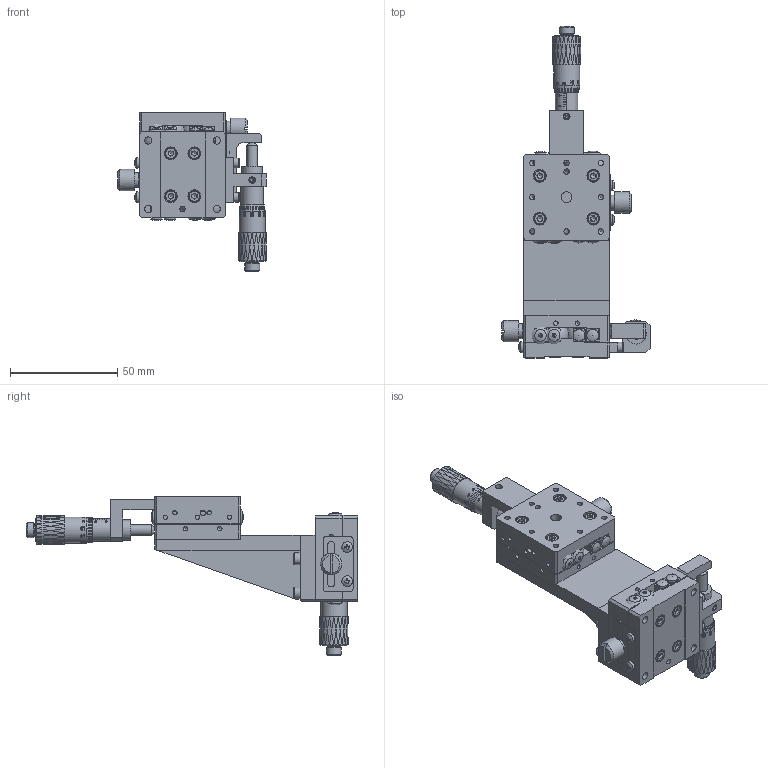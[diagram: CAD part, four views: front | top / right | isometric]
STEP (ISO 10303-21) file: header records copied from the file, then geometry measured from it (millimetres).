
FILE_DESCRIPTION (( 'STEP AP203' ), '1' );
FILE_NAME ('BVE40.STEP', '2024-07-23T11:57:20', ( 'Windows User' ), ( 'P R C' ), 'SwSTEP 2.0', 'SolidWorks 2024', '' );
FILE_SCHEMA (( 'CONFIG_CONTROL_DESIGN' ));
Length unit declared in the file: millimetre
Products named in the file (1): BVE40
Bounding box: 69.4 x 155 x 74.1 mm (x, y, z)
Volume: 93197.8 mm3; surface area: 73665.2 mm2
Topology: 68 solids, 68 shells, 3089 faces, 7620 edges, 4917 vertices
Faces by surface type: plane 1326, bspline 790, cylinder 553, cone 365, torus 49, sphere 6
Full cylindrical faces by diameter (mm): 2 x20, 2.05 x30, 2.5 x41, 2.55 x16, 2.9 x2, 2.95 x18, 3 x33, 3.1 x4, 3.2 x3, 3.4 x27, 3.5 x4, 4.4 x16, 4.5 x6, 5 x12, 5.5 x29, 5.8 x2, 6 x27, 7 x4, 8.5 x2, 9.5 x4, 10 x2, 10.5 x2, 12.2 x2
Entity records: 150125 total; most frequent: CARTESIAN_POINT 87777, ORIENTED_EDGE 13752, DIRECTION 9741, EDGE_CURVE 6876, VERTEX_POINT 4701, EDGE_LOOP 4105, AXIS2_PLACEMENT_3D 3618, FACE_OUTER_BOUND 3398
